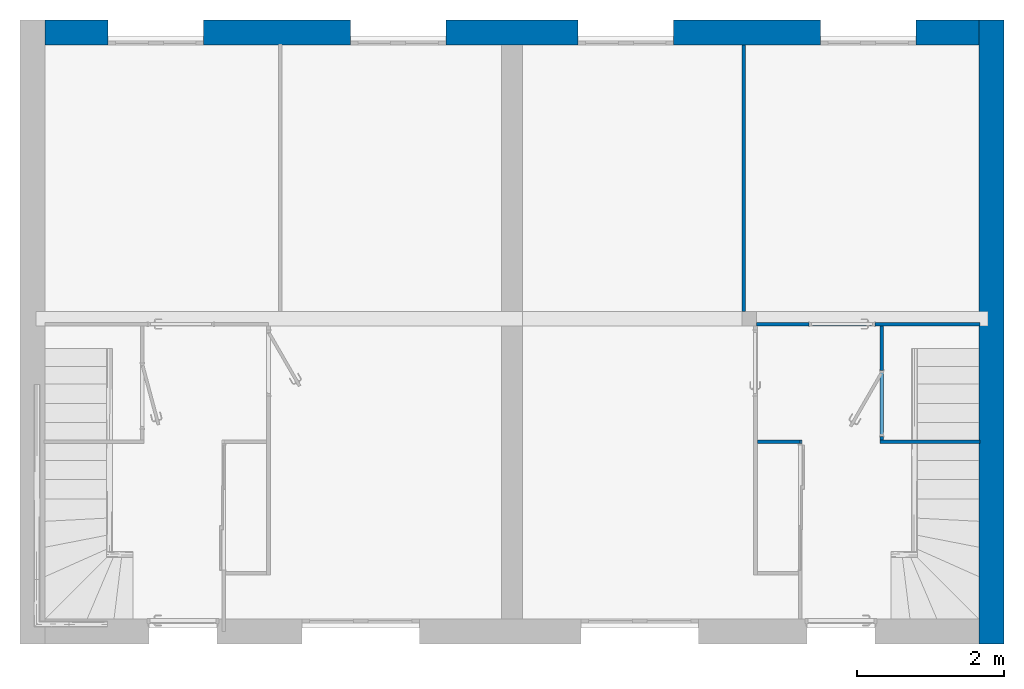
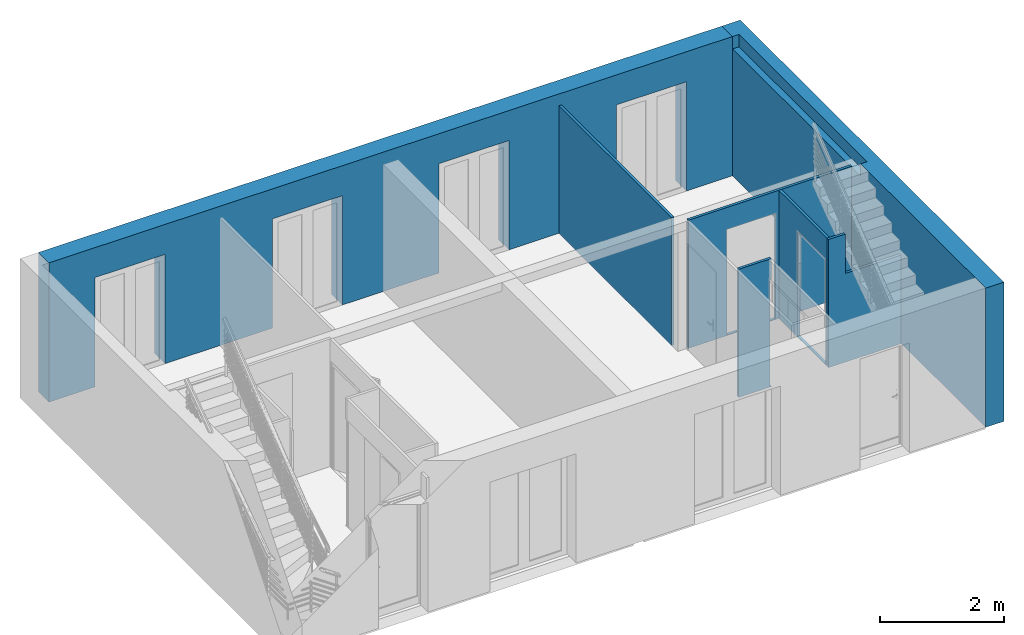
# One storey, part 2 of 13: 7 walls.
"""IFC2X3 building model written with IfcOpenShell, lengths in millimetres."""

from ifc_helpers import new_model, entity, si_unit, converted_unit, direction, frame, origin, origin_with_axes, place, context, project, spatial, faceted_brep, element, save


model = new_model("IFC2X3")

# Units and contexts
model_context = context("Model", 3, precision=1e-05, world=origin(), true_north=direction((0.0, 1.0, 0.0)))
ifc_project = project(units=[si_unit("LENGTHUNIT", "METRE", prefix="MILLI"), si_unit("AREAUNIT", "SQUARE_METRE"), si_unit("VOLUMEUNIT", "CUBIC_METRE"), converted_unit("PLANEANGLEUNIT", "DEGREE", entity("IfcPlaneAngleMeasure", 0.01745), si_unit("PLANEANGLEUNIT", "RADIAN"), dimensions=[0, 0, 0, 0, 0, 0, 0]), si_unit("SOLIDANGLEUNIT", "STERADIAN"), si_unit("MASSUNIT", "GRAM"), si_unit("TIMEUNIT", "SECOND"), si_unit("THERMODYNAMICTEMPERATUREUNIT", "DEGREE_CELSIUS"), si_unit("LUMINOUSINTENSITYUNIT", "LUMEN")], contexts=[model_context])

# Site, building, storey
placement = place(None, origin_with_axes())
site_placement = place(placement, frame((11636.08881703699, 2815.7442167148, 4.768371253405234e-06), z_axis=(0.0, 0.0, 1.0), x_axis=(1.0, 0.0, 0.0)))
site = spatial("IfcSite", under=ifc_project, at=site_placement, Name="Surface", CompositionType="ELEMENT")
building_placement = place(placement, origin_with_axes())
building = spatial("IfcBuilding", under=site, at=building_placement, Name="Default Building", CompositionType="ELEMENT")
storey_placement = place(building_placement, origin_with_axes())
storey = spatial("IfcBuildingStorey", under=building, at=storey_placement, Name="Rez de chaussée", CompositionType="ELEMENT", Elevation=0.0)

# Walls
wall_1_placement = place(storey_placement, frame((11636.08881703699, 2815.7442167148, 4.768371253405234e-06), z_axis=(0.0, 0.0, 1.0), x_axis=(1.0, 0.0, 0.0)))
element("IfcWallStandardCase", 1, at=wall_1_placement, inside=storey, Name="IfcWallStandardCase - Mur de base:Int. plâtre 50 mm", context=model_context, shape_type="Brep", body=[
    faceted_brep([(123.9111815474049, 14.25575944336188, 2.220446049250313e-13), (73.91118080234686, 914.2557803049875, 2.220446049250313e-13), (73.91118080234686, 14.25575944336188, 2.220446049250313e-13), (123.9111815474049, 914.2557803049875, 2.220446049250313e-13), (73.91118080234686, 914.2557803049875, 2074.999988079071), (123.9111815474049, 914.2557803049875, 2074.999988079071), (73.91118080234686, 14.25575944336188, 2074.999988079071), (123.9111815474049, 14.25575944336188, 2074.999988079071), (123.9111815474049, -35.7441928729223, 2509.999990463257), (73.91118080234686, -35.7441928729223, -9.999990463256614), (123.9111815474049, -35.7441928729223, -9.999990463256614), (73.91118080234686, -35.7441928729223, 2509.999990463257), (73.91118080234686, 1514.255759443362, 2509.999990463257), (123.9111815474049, 1514.255759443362, 2509.999990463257), (123.9111815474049, 1514.255759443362, -9.999990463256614), (73.91118080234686, 1514.255759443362, -9.999990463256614)], [[[0, 1, 2]], [[0, 3, 1]], [[3, 4, 1]], [[3, 5, 4]], [[5, 6, 4]], [[5, 7, 6]], [[7, 2, 6]], [[7, 0, 2]], [[8, 9, 10]], [[8, 11, 9]], [[12, 8, 13]], [[12, 11, 8]], [[14, 9, 15]], [[14, 10, 9]], [[10, 3, 0]], [[3, 14, 5]], [[14, 3, 10]], [[0, 8, 10]], [[7, 8, 0]], [[5, 8, 7]], [[5, 13, 8]], [[13, 5, 14]], [[15, 1, 12]], [[15, 2, 1]], [[2, 9, 6]], [[9, 2, 15]], [[4, 12, 1]], [[6, 12, 4]], [[6, 11, 12]], [[11, 6, 9]], [[12, 14, 15]], [[12, 13, 14]]]),
])
wall_2_placement = place(storey_placement, frame((11636.08881703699, 2815.7442167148, 4.768371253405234e-06), z_axis=(0.0, 0.0, 1.0), x_axis=(1.0, 0.0, 0.0)))
element("IfcWallStandardCase", 2, at=wall_2_placement, inside=storey, Name="IfcWallStandardCase - Mur de base:Int. plâtre 50 mm", context=model_context, shape_type="Brep", body=[
    faceted_brep([(8.911179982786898, 1514.255782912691, 2.220446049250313e-13), (8.911179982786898, 1564.255783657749, 2074.999988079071), (8.911179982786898, 1564.255783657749, 2.220446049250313e-13), (8.911179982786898, 1514.255782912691, 2074.999988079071), (-891.0888259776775, 1564.255783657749, 2074.999988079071), (-891.0888259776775, 1514.255782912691, 2074.999988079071), (-891.0888259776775, 1564.255783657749, 2.220446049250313e-13), (-891.0888259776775, 1514.255782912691, 2.220446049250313e-13), (-1606.088799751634, 1514.255782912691, 2509.999990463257), (-1606.088799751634, 1564.255783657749, -9.999990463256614), (-1606.088799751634, 1514.255782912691, -9.999990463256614), (-1606.088799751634, 1564.255783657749, 2509.999990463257), (1433.911162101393, 1564.255783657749, 2509.999990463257), (1433.911162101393, 1514.255782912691, 2509.999990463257), (1433.911162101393, 1514.255782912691, -9.999990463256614), (1433.911162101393, 1564.255783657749, -9.999990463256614)], [[[0, 1, 2]], [[0, 3, 1]], [[3, 4, 1]], [[3, 5, 4]], [[5, 6, 4]], [[5, 7, 6]], [[7, 2, 6]], [[7, 0, 2]], [[8, 9, 10]], [[8, 11, 9]], [[12, 8, 13]], [[12, 11, 8]], [[14, 9, 15]], [[14, 10, 9]], [[10, 7, 8]], [[10, 0, 7]], [[0, 14, 3]], [[14, 0, 10]], [[5, 8, 7]], [[3, 8, 5]], [[3, 13, 8]], [[13, 3, 14]], [[15, 2, 12]], [[15, 6, 2]], [[6, 9, 4]], [[9, 6, 15]], [[1, 12, 2]], [[4, 12, 1]], [[4, 11, 12]], [[11, 4, 9]], [[12, 14, 15]], [[12, 13, 14]]]),
])
wall_3_placement = place(storey_placement, frame((11636.08881703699, 2815.7442167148, 4.768371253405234e-06), z_axis=(0.0, 0.0, 1.0), x_axis=(1.0, 0.0, 0.0)))
element("IfcWallStandardCase", 3, at=wall_3_placement, inside=storey, Name="IfcWallStandardCase - Mur de base:Int. plâtre 50 mm", context=model_context, shape_type="Brep", body=[
    faceted_brep([(-1806.088819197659, 5344.25584050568, 2509.999990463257), (-1756.088818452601, 1714.255726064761, 2509.999990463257), (-1756.088818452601, 5344.25584050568, 2509.999990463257), (-1806.088819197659, 1714.255726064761, 2509.999990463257), (-1756.088818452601, 5344.25584050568, -9.999990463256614), (-1806.088819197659, 1714.255726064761, -9.999990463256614), (-1806.088819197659, 5344.25584050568, -9.999990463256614), (-1756.088818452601, 1714.255726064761, -9.999990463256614)], [[[0, 1, 2]], [[0, 3, 1]], [[4, 5, 6]], [[4, 7, 5]], [[3, 6, 5]], [[3, 0, 6]], [[1, 5, 7]], [[1, 3, 5]], [[2, 7, 4]], [[2, 1, 7]], [[0, 4, 6]], [[0, 2, 4]]]),
])
wall_4_placement = place(storey_placement, frame((11636.08881703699, 2815.7442167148, 4.768371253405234e-06), z_axis=(0.0, 0.0, 1.0), x_axis=(1.0, 0.0, 0.0)))
element("IfcWallStandardCase", 4, at=wall_4_placement, inside=storey, Name="IfcWallStandardCase - Mur de base:Mur de base Ext. Parpaing 20 + Isolant 12", context=model_context, shape_type="Brep", body=[
    faceted_brep([(-11296.08895233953, 5344.25578149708, 2740.000004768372), (-11296.08895233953, 5684.255785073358, -4.76837147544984e-06), (-11296.08895233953, 5344.25578149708, -4.76837147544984e-06), (-11296.08895233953, 5684.255785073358, 2740.000004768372), (563.9111811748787, 5684.255785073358, 2149.999971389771), (563.9111811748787, 5344.25578149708, -4.76837147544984e-06), (563.9111811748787, 5344.25578149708, 2149.999971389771), (563.9111811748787, 5684.255785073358, -4.76837147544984e-06), (-736.0890095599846, 5684.255785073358, 2149.999971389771), (-736.0890095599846, 5344.25578149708, 2149.999971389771), (-736.0890095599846, 5684.255785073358, -4.76837147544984e-06), (-736.0890095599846, 5344.25578149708, -4.76837147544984e-06), (-2736.088771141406, 5684.255785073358, -4.76837147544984e-06), (-2736.088771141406, 5344.25578149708, -4.76837147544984e-06), (-2736.088771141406, 5684.255785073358, 2149.999971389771), (-2736.088771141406, 5344.25578149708, 2149.999971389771), (-4036.088842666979, 5684.255785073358, 2149.999971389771), (-4036.088842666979, 5344.25578149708, 2149.999971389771), (-4036.088842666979, 5684.255785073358, -4.76837147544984e-06), (-4036.088842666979, 5344.25578149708, -4.76837147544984e-06), (-5836.088794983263, 5684.255785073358, -4.76837147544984e-06), (-5836.088794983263, 5344.25578149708, -4.76837147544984e-06), (-5836.088794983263, 5684.255785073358, 2149.999971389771), (-5836.088794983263, 5344.25578149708, 2149.999971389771), (-7136.088866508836, 5684.255785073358, 2149.999971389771), (-7136.088866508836, 5344.25578149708, 2149.999971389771), (-7136.088866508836, 5684.255785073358, -4.76837147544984e-06), (-7136.088866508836, 5344.25578149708, -4.76837147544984e-06), (-9136.088628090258, 5684.255785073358, -4.76837147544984e-06), (-9136.088628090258, 5344.25578149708, -4.76837147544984e-06), (-9136.088628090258, 5684.255785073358, 2149.999971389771), (-9136.088628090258, 5344.25578149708, 2149.999971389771), (-10436.08881882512, 5684.255785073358, 2149.999971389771), (-10436.08881882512, 5344.25578149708, 2149.999971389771), (-10436.08881882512, 5684.255785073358, -4.76837147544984e-06), (-10436.08881882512, 5344.25578149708, -4.76837147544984e-06), (1423.911314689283, 5684.255785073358, 2740.000004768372), (1423.911314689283, 5344.25578149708, 2740.000004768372), (1423.911314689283, 5344.25578149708, -4.76837147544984e-06), (1423.911314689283, 5684.255785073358, -4.76837147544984e-06)], [[[0, 1, 2]], [[0, 3, 1]], [[4, 5, 6]], [[4, 7, 5]], [[8, 6, 9]], [[8, 4, 6]], [[10, 9, 11]], [[10, 8, 9]], [[11, 12, 10]], [[11, 13, 12]], [[14, 13, 15]], [[14, 12, 13]], [[16, 15, 17]], [[16, 14, 15]], [[18, 17, 19]], [[18, 16, 17]], [[19, 20, 18]], [[19, 21, 20]], [[22, 21, 23]], [[22, 20, 21]], [[24, 23, 25]], [[24, 22, 23]], [[26, 25, 27]], [[26, 24, 25]], [[27, 28, 26]], [[27, 29, 28]], [[30, 29, 31]], [[30, 28, 29]], [[32, 31, 33]], [[32, 30, 31]], [[34, 33, 35]], [[34, 32, 33]], [[35, 1, 34]], [[35, 2, 1]], [[36, 0, 37]], [[36, 3, 0]], [[38, 7, 39]], [[38, 5, 7]], [[13, 9, 15]], [[9, 13, 11]], [[21, 17, 23]], [[17, 21, 19]], [[29, 25, 31]], [[25, 29, 27]], [[0, 33, 37]], [[2, 33, 0]], [[33, 2, 35]], [[31, 37, 33]], [[25, 37, 31]], [[23, 37, 25]], [[17, 37, 23]], [[15, 37, 17]], [[9, 37, 15]], [[6, 37, 9]], [[5, 37, 6]], [[37, 5, 38]], [[26, 30, 24]], [[30, 26, 28]], [[18, 22, 16]], [[22, 18, 20]], [[10, 14, 8]], [[14, 10, 12]], [[36, 4, 3]], [[39, 4, 36]], [[4, 39, 7]], [[8, 3, 4]], [[14, 3, 8]], [[16, 3, 14]], [[22, 3, 16]], [[24, 3, 22]], [[30, 3, 24]], [[32, 3, 30]], [[34, 3, 32]], [[3, 34, 1]], [[36, 38, 39]], [[36, 37, 38]]]),
])
wall_5_placement = place(storey_placement, frame((11636.08881703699, 2815.7442167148, 4.768371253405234e-06), z_axis=(0.0, 0.0, 1.0), x_axis=(1.0, 0.0, 0.0)))
element("IfcWallStandardCase", 5, at=wall_5_placement, inside=storey, Name="IfcWallStandardCase - Mur de base:Int. plâtre 50 mm", context=model_context, shape_type="Brep", body=[
    faceted_brep([(-986.0888116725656, -35.74421634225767, -9.999990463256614), (-986.0888116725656, -85.74421708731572, 2.220446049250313e-13), (-986.0888116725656, -85.74421708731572, -9.999990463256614), (-986.0888116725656, -35.74421634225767, 2.220446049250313e-13), (-1011.08881763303, -85.74421708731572, 2.220446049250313e-13), (-1011.08881763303, -35.74421634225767, 2.220446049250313e-13), (-1011.08881763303, -85.74421708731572, 2100.000023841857), (-1011.08881763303, -35.74421634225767, 2100.000023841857), (-986.0888116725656, -85.74421708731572, 2100.000023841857), (-986.0888116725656, -35.74421634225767, 2100.000023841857), (-986.0888116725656, -85.74421708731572, 2509.999990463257), (-986.0888116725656, -35.74421634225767, 2509.999990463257), (-1596.08882597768, -85.74421708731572, 2509.999990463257), (-1596.08882597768, -35.74421634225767, 2509.999990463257), (-1596.08882597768, -35.74421634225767, -9.999990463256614), (-1596.08882597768, -85.74421708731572, -9.999990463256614)], [[[0, 1, 2]], [[0, 3, 1]], [[3, 4, 1]], [[3, 5, 4]], [[5, 6, 4]], [[5, 7, 6]], [[7, 8, 6]], [[7, 9, 8]], [[9, 10, 8]], [[9, 11, 10]], [[12, 11, 13]], [[12, 10, 11]], [[14, 2, 15]], [[14, 0, 2]], [[3, 0, 5]], [[9, 13, 11]], [[7, 13, 9]], [[5, 13, 7]], [[5, 14, 13]], [[14, 5, 0]], [[12, 6, 10]], [[12, 4, 6]], [[15, 4, 12]], [[15, 1, 4]], [[1, 15, 2]], [[10, 6, 8]], [[12, 14, 15]], [[12, 13, 14]]]),
])
wall_6_placement = place(storey_placement, frame((11636.08881703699, 2815.7442167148, 4.768371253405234e-06), z_axis=(0.0, 0.0, 1.0), x_axis=(1.0, 0.0, 0.0)))
element("IfcWallStandardCase", 6, at=wall_6_placement, inside=storey, Name="IfcWallStandardCase - Mur de base:Mur de base Ext. Parpaing 20 + Isolant 12", context=model_context, shape_type="Brep", body=[
    faceted_brep([(1423.911179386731, 1215.968434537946, 2498.000020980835), (1543.911180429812, 5344.255869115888, 2498.000020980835), (1423.911179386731, 5344.255869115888, 2498.000020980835), (1543.911180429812, 1215.968434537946, 2498.000020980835), (1543.911180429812, 5344.255869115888, 2740.000004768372), (1423.911179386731, 5344.255869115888, 2740.000004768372), (1543.911180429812, 1215.968434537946, 2740.000004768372), (1423.911179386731, 1215.968434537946, 2740.000004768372), (1763.911182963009, 5684.255783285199, 2740.000004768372), (1423.911179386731, 5684.255783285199, 2740.000004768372), (1763.911182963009, 5344.255869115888, 2740.000004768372), (1763.911182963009, 5684.255783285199, -4.768371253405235e-06), (1423.911179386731, 5684.255783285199, -4.768371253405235e-06), (1423.911179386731, -2815.7442167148, 2740.000004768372), (1423.911179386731, -2815.7442167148, -4.768371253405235e-06), (1763.911182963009, -2815.7442167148, 2740.000004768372), (1763.911182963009, -2815.7442167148, -4.768371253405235e-06)], [[[0, 1, 2]], [[0, 3, 1]], [[2, 4, 5]], [[2, 1, 4]], [[1, 6, 4]], [[1, 3, 6]], [[3, 7, 6]], [[3, 0, 7]], [[5, 8, 9]], [[4, 8, 5]], [[8, 4, 10]], [[9, 11, 12]], [[9, 8, 11]], [[9, 2, 5]], [[2, 12, 0]], [[12, 2, 9]], [[0, 13, 7]], [[12, 13, 0]], [[13, 12, 14]], [[7, 13, 6]], [[6, 10, 4]], [[13, 10, 6]], [[10, 13, 15]], [[14, 11, 16]], [[14, 12, 11]], [[16, 10, 15]], [[11, 10, 16]], [[10, 11, 8]], [[15, 14, 16]], [[15, 13, 14]]]),
])
wall_7_placement = place(storey_placement, frame((11636.08881703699, 2815.7442167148, 4.768371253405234e-06), z_axis=(0.0, 0.0, 1.0), x_axis=(1.0, 0.0, 0.0)))
element("IfcWallStandardCase", 7, at=wall_7_placement, inside=storey, Name="IfcWallStandardCase - Mur de base:Int. plâtre 50 mm", context=model_context, shape_type="Brep", body=[
    faceted_brep([(1433.91118832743, -35.74421634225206, -9.999990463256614), (1433.91118832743, -85.74421708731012, 1733.999997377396), (1433.91118832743, -85.74421708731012, -9.999990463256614), (1433.91118832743, -35.74421634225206, 1733.999997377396), (389.9204272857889, -35.74421634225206, 1733.999997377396), (389.9204272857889, -85.74421708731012, 1733.999997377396), (389.9204272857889, -85.74421708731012, 2507.333278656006), (389.9204272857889, -35.74421634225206, 2507.333278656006), (385.7687253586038, -85.74421708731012, 2509.999990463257), (385.7687253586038, -35.74421634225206, 2509.999990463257), (73.9111740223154, -85.74421708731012, 2509.999990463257), (73.9111740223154, -35.74421634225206, 2509.999990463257), (73.9111740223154, -35.74421634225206, -9.999990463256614), (73.9111740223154, -85.74421708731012, -9.999990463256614)], [[[0, 1, 2]], [[0, 3, 1]], [[4, 1, 3]], [[4, 5, 1]], [[4, 6, 5]], [[4, 7, 6]], [[7, 8, 6]], [[7, 9, 8]], [[10, 9, 11]], [[10, 8, 9]], [[12, 2, 13]], [[12, 0, 2]], [[3, 0, 4]], [[7, 11, 9]], [[4, 11, 7]], [[4, 12, 11]], [[12, 4, 0]], [[10, 6, 8]], [[10, 5, 6]], [[13, 5, 10]], [[13, 1, 5]], [[1, 13, 2]], [[10, 12, 13]], [[10, 11, 12]]]),
])

save(model, "model.ifc")
